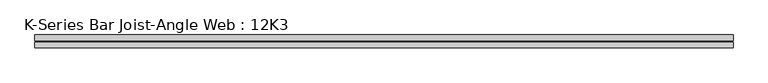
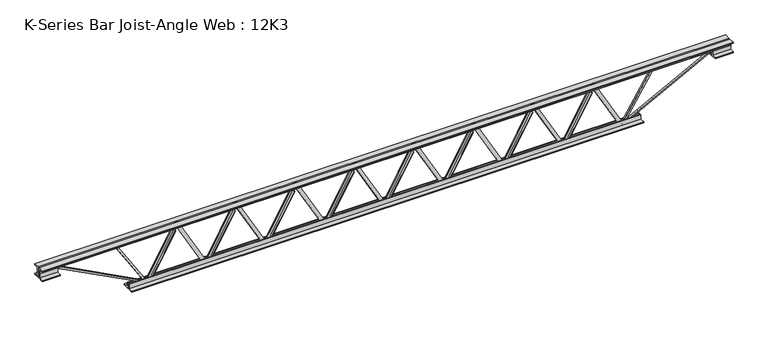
"""IFC4 building model written with IfcOpenShell, lengths in millimetres: beam geometry, K-Series Bar Joist-Angle Web : 12K3."""

from ifc_helpers import new_model, si_unit, frame, origin, place, context, project, spatial, polyline, outline, extrude, faceted_brep, source, transform, mapped, element, save


def k_series_bar_joist_angle_web_12k3_6eb7fb9a(model_context):
    return source(origin(), model_context, "Body", "SolidModel", [
        extrude(outline(polyline([(-4.7625, 4.7625), (-4.7625, 0.0), (-17.4625, 0.0), (-17.4625, 4.7625), (-4.7625, 4.7625)])), frame((981.1603102, 0.0, -114.3), z_axis=(-0.487432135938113, 0.0, 0.8731608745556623), x_axis=(0.0, -1.0, 0.0)), (0.0, 0.0, 1.0), 261.8074248),
        extrude(outline(polyline([(-149.225, 1012.5982143), (-130.175, 1012.5982143), (-130.175, 1011.839634), (149.225, 855.867759), (149.225, 837.5763393), (130.175, 837.5763393), (130.175, 844.6849196), (-149.225, 1000.6567946), (-149.225, 1012.5982143)])), frame((0.0, 0.0, 0.0), z_axis=(0.0, 1.0, 0.0), x_axis=(0.0, 0.0, 1.0)), (0.0, 0.0, 1.0), 4.7625),
        faceted_brep([(675.2544643, 0.0, -130.175), (675.2544643, 0.0, -149.225), (675.2544643, -4.7625, -149.225), (675.2544643, -4.7625, -130.175), (676.0130446, 0.0, -130.175), (831.9849196, 0.0, 149.225), (850.2763393, 0.0, 149.225), (850.2763393, 0.0, 130.175), (843.167759, 0.0, 130.175), (687.195884, 0.0, -149.225), (687.195884, -4.7625, -149.225), (706.6923683, -4.7625, -114.3), (702.5339397, -4.7625, -111.9786045), (830.147292, -4.7625, 116.6213955), (834.3057206, -4.7625, 114.3), (843.167759, -4.7625, 130.175), (850.2763393, -4.7625, 130.175), (850.2763393, -4.7625, 149.225), (831.9849196, -4.7625, 149.225), (676.0130446, -4.7625, -130.175), (834.3057206, -17.4625, 114.3), (706.6923683, -17.4625, -114.3), (702.5339397, -17.4625, -111.9786045), (830.147292, -17.4625, 116.6213955)], [[[0, 1, 2, 3]], [[1, 0, 4, 5, 6, 7, 8, 9]], [[2, 1, 9, 10]], [[3, 2, 10, 11, 12, 13, 14, 15, 16, 17, 18, 19]], [[0, 3, 19, 4]], [[9, 8, 15, 14, 20, 21, 11, 10]], [[5, 4, 19, 18]], [[7, 6, 17, 16]], [[8, 7, 16, 15]], [[6, 5, 18, 17]], [[21, 22, 12, 11]], [[20, 14, 13, 23]], [[22, 21, 20, 23]], [[12, 22, 23, 13]]]),
        extrude(outline(polyline([(-4.7625, 4.7625), (-4.7625, 0.0), (-17.4625, 0.0), (-17.4625, 4.7625), (-4.7625, 4.7625)])), frame((643.5897745, 0.0, -114.3), z_axis=(-0.487432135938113, 0.0, 0.8731608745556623), x_axis=(0.0, -1.0, 0.0)), (0.0, 0.0, 1.0), 261.8074248),
        extrude(outline(polyline([(-149.225, 675.0276786), (-130.175, 675.0276786), (-130.175, 674.2690983), (149.225, 518.2972233), (149.225, 500.0058036), (130.175, 500.0058036), (130.175, 507.1143839), (-149.225, 663.0862589), (-149.225, 675.0276786)])), frame((0.0, 0.0, 0.0), z_axis=(0.0, 1.0, 0.0), x_axis=(0.0, 0.0, 1.0)), (0.0, 0.0, 1.0), 4.7625),
        faceted_brep([(337.6839286, 0.0, -130.175), (337.6839286, 0.0, -149.225), (337.6839286, -4.7625, -149.225), (337.6839286, -4.7625, -130.175), (338.4425089, 0.0, -130.175), (494.4143839, 0.0, 149.225), (512.7058036, 0.0, 149.225), (512.7058036, 0.0, 130.175), (505.5972233, 0.0, 130.175), (349.6253483, 0.0, -149.225), (349.6253483, -4.7625, -149.225), (369.1218326, -4.7625, -114.3), (364.963404, -4.7625, -111.9786045), (492.5767562, -4.7625, 116.6213955), (496.7351849, -4.7625, 114.3), (505.5972233, -4.7625, 130.175), (512.7058036, -4.7625, 130.175), (512.7058036, -4.7625, 149.225), (494.4143839, -4.7625, 149.225), (338.4425089, -4.7625, -130.175), (496.7351849, -17.4625, 114.3), (369.1218326, -17.4625, -114.3), (364.963404, -17.4625, -111.9786045), (492.5767562, -17.4625, 116.6213955)], [[[0, 1, 2, 3]], [[1, 0, 4, 5, 6, 7, 8, 9]], [[2, 1, 9, 10]], [[3, 2, 10, 11, 12, 13, 14, 15, 16, 17, 18, 19]], [[0, 3, 19, 4]], [[9, 8, 15, 14, 20, 21, 11, 10]], [[5, 4, 19, 18]], [[7, 6, 17, 16]], [[8, 7, 16, 15]], [[6, 5, 18, 17]], [[21, 22, 12, 11]], [[20, 14, 13, 23]], [[22, 21, 20, 23]], [[12, 22, 23, 13]]]),
        extrude(outline(polyline([(-4.7625, 4.7625), (-4.7625, 0.0), (-17.4625, 0.0), (-17.4625, 4.7625), (-4.7625, 4.7625)])), frame((306.0192388, 0.0, -114.3), z_axis=(-0.487432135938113, 0.0, 0.8731608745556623), x_axis=(0.0, -1.0, 0.0)), (0.0, 0.0, 1.0), 261.8074248),
        extrude(outline(polyline([(-149.225, 337.4571429), (-130.175, 337.4571429), (-130.175, 336.6985625), (149.225, 180.7266875), (149.225, 162.4352679), (130.175, 162.4352679), (130.175, 169.5438482), (-149.225, 325.5157232), (-149.225, 337.4571429)])), frame((0.0, 0.0, 0.0), z_axis=(0.0, 1.0, 0.0), x_axis=(0.0, 0.0, 1.0)), (0.0, 0.0, 1.0), 4.7625),
        faceted_brep([(0.1133929, 0.0, -130.175), (0.1133929, 0.0, -149.225), (0.1133929, -4.7625, -149.225), (0.1133929, -4.7625, -130.175), (0.8719732, 0.0, -130.175), (156.8438482, 0.0, 149.225), (175.1352679, 0.0, 149.225), (175.1352679, 0.0, 130.175), (168.0266875, 0.0, 130.175), (12.0548125, 0.0, -149.225), (12.0548125, -4.7625, -149.225), (31.5512969, -4.7625, -114.3), (27.3928683, -4.7625, -111.9786045), (155.0062205, -4.7625, 116.6213955), (159.1646492, -4.7625, 114.3), (168.0266875, -4.7625, 130.175), (175.1352679, -4.7625, 130.175), (175.1352679, -4.7625, 149.225), (156.8438482, -4.7625, 149.225), (0.8719732, -4.7625, -130.175), (159.1646492, -17.4625, 114.3), (31.5512969, -17.4625, -114.3), (27.3928683, -17.4625, -111.9786045), (155.0062205, -17.4625, 116.6213955)], [[[0, 1, 2, 3]], [[1, 0, 4, 5, 6, 7, 8, 9]], [[2, 1, 9, 10]], [[3, 2, 10, 11, 12, 13, 14, 15, 16, 17, 18, 19]], [[0, 3, 19, 4]], [[9, 8, 15, 14, 20, 21, 11, 10]], [[5, 4, 19, 18]], [[7, 6, 17, 16]], [[8, 7, 16, 15]], [[6, 5, 18, 17]], [[21, 22, 12, 11]], [[20, 14, 13, 23]], [[22, 21, 20, 23]], [[12, 22, 23, 13]]]),
        extrude(outline(polyline([(-4.7625, 4.7624999), (-4.7625, 0.0), (-17.4625, 0.0), (-17.4625, 4.7624999), (-4.7625, 4.7624999)])), frame((-31.5512969, 0.0, -114.3), z_axis=(-0.487432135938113, 0.0, 0.8731608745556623), x_axis=(0.0, -1.0, 0.0)), (0.0, 0.0, 1.0), 261.8074248),
        extrude(outline(polyline([(-149.225, -0.1133929), (-130.175, -0.1133929), (-130.175, -0.8719732), (149.225, -156.8438482), (149.225, -175.1352679), (130.175, -175.1352679), (130.175, -168.0266875), (-149.225, -12.0548125), (-149.225, -0.1133929)])), frame((0.0, 0.0, 0.0), z_axis=(0.0, 1.0, 0.0), x_axis=(0.0, 0.0, 1.0)), (0.0, 0.0, 1.0), 4.7625),
        faceted_brep([(-337.4571429, 0.0, -130.175), (-337.4571429, 0.0, -149.225), (-337.4571429, -4.7625, -149.225), (-337.4571429, -4.7625, -130.175), (-336.6985625, 0.0, -130.175), (-180.7266875, 0.0, 149.225), (-162.4352679, 0.0, 149.225), (-162.4352679, 0.0, 130.175), (-169.5438482, 0.0, 130.175), (-325.5157232, 0.0, -149.225), (-325.5157232, -4.7625, -149.225), (-306.0192388, -4.7625, -114.3), (-310.1776675, -4.7625, -111.9786045), (-182.5643152, -4.7625, 116.6213955), (-178.4058865, -4.7625, 114.3), (-169.5438482, -4.7625, 130.175), (-162.4352679, -4.7625, 130.175), (-162.4352679, -4.7625, 149.225), (-180.7266875, -4.7625, 149.225), (-336.6985625, -4.7625, -130.175), (-178.4058865, -17.4625, 114.3), (-306.0192388, -17.4625, -114.3), (-310.1776675, -17.4625, -111.9786045), (-182.5643152, -17.4625, 116.6213955)], [[[0, 1, 2, 3]], [[1, 0, 4, 5, 6, 7, 8, 9]], [[2, 1, 9, 10]], [[3, 2, 10, 11, 12, 13, 14, 15, 16, 17, 18, 19]], [[0, 3, 19, 4]], [[9, 8, 15, 14, 20, 21, 11, 10]], [[5, 4, 19, 18]], [[7, 6, 17, 16]], [[8, 7, 16, 15]], [[6, 5, 18, 17]], [[21, 22, 12, 11]], [[20, 14, 13, 23]], [[22, 21, 20, 23]], [[12, 22, 23, 13]]]),
        extrude(outline(polyline([(-4.7625, 4.7624999), (-4.7625, 0.0), (-17.4625, 0.0), (-17.4625, 4.7624999), (-4.7625, 4.7624999)])), frame((-369.1218326, 0.0, -114.3), z_axis=(-0.487432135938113, 0.0, 0.8731608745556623), x_axis=(0.0, -1.0, 0.0)), (0.0, 0.0, 1.0), 261.8074248),
        extrude(outline(polyline([(-149.225, -337.6839286), (-130.175, -337.6839286), (-130.175, -338.4425089), (149.225, -494.4143839), (149.225, -512.7058036), (130.175, -512.7058036), (130.175, -505.5972233), (-149.225, -349.6253483), (-149.225, -337.6839286)])), frame((0.0, 0.0, 0.0), z_axis=(0.0, 1.0, 0.0), x_axis=(0.0, 0.0, 1.0)), (0.0, 0.0, 1.0), 4.7625),
        faceted_brep([(-675.0276786, 0.0, -130.175), (-675.0276786, 0.0, -149.225), (-675.0276786, -4.7625, -149.225), (-675.0276786, -4.7625, -130.175), (-674.2690983, 0.0, -130.175), (-518.2972233, 0.0, 149.225), (-500.0058036, 0.0, 149.225), (-500.0058036, 0.0, 130.175), (-507.1143839, 0.0, 130.175), (-663.0862589, 0.0, -149.225), (-663.0862589, -4.7625, -149.225), (-643.5897745, -4.7625, -114.3), (-647.7482032, -4.7625, -111.9786045), (-520.1348509, -4.7625, 116.6213955), (-515.9764222, -4.7625, 114.3), (-507.1143839, -4.7625, 130.175), (-500.0058036, -4.7625, 130.175), (-500.0058036, -4.7625, 149.225), (-518.2972233, -4.7625, 149.225), (-674.2690983, -4.7625, -130.175), (-515.9764222, -17.4625, 114.3), (-643.5897745, -17.4625, -114.3), (-647.7482032, -17.4625, -111.9786045), (-520.1348509, -17.4625, 116.6213955)], [[[0, 1, 2, 3]], [[1, 0, 4, 5, 6, 7, 8, 9]], [[2, 1, 9, 10]], [[3, 2, 10, 11, 12, 13, 14, 15, 16, 17, 18, 19]], [[0, 3, 19, 4]], [[9, 8, 15, 14, 20, 21, 11, 10]], [[5, 4, 19, 18]], [[7, 6, 17, 16]], [[8, 7, 16, 15]], [[6, 5, 18, 17]], [[21, 22, 12, 11]], [[20, 14, 13, 23]], [[22, 21, 20, 23]], [[12, 22, 23, 13]]]),
        extrude(outline(polyline([(-4.7625, 4.7624999), (-4.7625, 0.0), (-17.4625, 0.0), (-17.4625, 4.7624999), (-4.7625, 4.7624999)])), frame((-706.6923683, 0.0, -114.3), z_axis=(-0.487432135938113, 0.0, 0.8731608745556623), x_axis=(0.0, -1.0, 0.0)), (0.0, 0.0, 1.0), 261.8074248),
        extrude(outline(polyline([(-149.225, -675.2544643), (-130.175, -675.2544643), (-130.175, -676.0130446), (149.225, -831.9849196), (149.225, -850.2763393), (130.175, -850.2763393), (130.175, -843.167759), (-149.225, -687.195884), (-149.225, -675.2544643)])), frame((0.0, 0.0, 0.0), z_axis=(0.0, 1.0, 0.0), x_axis=(0.0, 0.0, 1.0)), (0.0, 0.0, 1.0), 4.7625),
        faceted_brep([(-1012.5982143, 0.0, -130.175), (-1012.5982143, 0.0, -149.225), (-1012.5982143, -4.7625, -149.225), (-1012.5982143, -4.7625, -130.175), (-1011.839634, 0.0, -130.175), (-855.867759, 0.0, 149.225), (-837.5763393, 0.0, 149.225), (-837.5763393, 0.0, 130.175), (-844.6849196, 0.0, 130.175), (-1000.6567946, 0.0, -149.225), (-1000.6567946, -4.7625, -149.225), (-981.1603102, -4.7625, -114.3), (-985.3187389, -4.7625, -111.9786045), (-857.7053866, -4.7625, 116.6213955), (-853.5469579, -4.7625, 114.3), (-844.6849196, -4.7625, 130.175), (-837.5763393, -4.7625, 130.175), (-837.5763393, -4.7625, 149.225), (-855.867759, -4.7625, 149.225), (-1011.839634, -4.7625, -130.175), (-853.5469579, -17.4625, 114.3), (-981.1603102, -17.4625, -114.3), (-985.3187389, -17.4625, -111.9786045), (-857.7053866, -17.4625, 116.6213955)], [[[0, 1, 2, 3]], [[1, 0, 4, 5, 6, 7, 8, 9]], [[2, 1, 9, 10]], [[3, 2, 10, 11, 12, 13, 14, 15, 16, 17, 18, 19]], [[0, 3, 19, 4]], [[9, 8, 15, 14, 20, 21, 11, 10]], [[5, 4, 19, 18]], [[7, 6, 17, 16]], [[8, 7, 16, 15]], [[6, 5, 18, 17]], [[21, 22, 12, 11]], [[20, 14, 13, 23]], [[22, 21, 20, 23]], [[12, 22, 23, 13]]]),
        extrude(outline(polyline([(-4.7625, 4.7625), (-4.7625, 0.0), (-17.4625, 0.0), (-17.4625, 4.7625), (-4.7625, 4.7625)])), frame((1318.7308459, 0.0, -114.3), z_axis=(-0.487432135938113, 0.0, 0.8731608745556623), x_axis=(0.0, -1.0, 0.0)), (0.0, 0.0, 1.0), 261.8074248),
        extrude(outline(polyline([(-149.225, 1350.16875), (-130.175, 1350.16875), (-130.175, 1349.4101697), (149.225, 1193.4382947), (149.225, 1175.146875), (130.175, 1175.146875), (130.175, 1182.2554553), (-149.225, 1338.2273303), (-149.225, 1350.16875)])), frame((0.0, 0.0, 0.0), z_axis=(0.0, 1.0, 0.0), x_axis=(0.0, 0.0, 1.0)), (0.0, 0.0, 1.0), 4.7625),
        faceted_brep([(1012.825, 0.0, -130.175), (1012.825, 0.0, -149.225), (1012.825, -4.7625, -149.225), (1012.825, -4.7625, -130.175), (1013.5835803, 0.0, -130.175), (1169.5554553, 0.0, 149.225), (1187.846875, 0.0, 149.225), (1187.846875, 0.0, 130.175), (1180.7382947, 0.0, 130.175), (1024.7664197, 0.0, -149.225), (1024.7664197, -4.7625, -149.225), (1044.2629041, -4.7625, -114.3), (1040.1044754, -4.7625, -111.9786045), (1167.7178277, -4.7625, 116.6213955), (1171.8762563, -4.7625, 114.3), (1180.7382947, -4.7625, 130.175), (1187.846875, -4.7625, 130.175), (1187.846875, -4.7625, 149.225), (1169.5554553, -4.7625, 149.225), (1013.5835803, -4.7625, -130.175), (1171.8762563, -17.4625, 114.3), (1044.2629041, -17.4625, -114.3), (1040.1044754, -17.4625, -111.9786045), (1167.7178277, -17.4625, 116.6213955)], [[[0, 1, 2, 3]], [[1, 0, 4, 5, 6, 7, 8, 9]], [[2, 1, 9, 10]], [[3, 2, 10, 11, 12, 13, 14, 15, 16, 17, 18, 19]], [[0, 3, 19, 4]], [[9, 8, 15, 14, 20, 21, 11, 10]], [[5, 4, 19, 18]], [[7, 6, 17, 16]], [[8, 7, 16, 15]], [[6, 5, 18, 17]], [[21, 22, 12, 11]], [[20, 14, 13, 23]], [[22, 21, 20, 23]], [[12, 22, 23, 13]]]),
        extrude(outline(polyline([(-4.7625, 4.7625), (-4.7625, 0.0), (-17.4625, 0.0), (-17.4625, 4.7625), (-4.7625, 4.7625)])), frame((-1044.2629041, 0.0, -114.3), z_axis=(-0.487432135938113, 0.0, 0.8731608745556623), x_axis=(0.0, -1.0, 0.0)), (0.0, 0.0, 1.0), 261.8074248),
        extrude(outline(polyline([(-149.225, -1012.825), (-130.175, -1012.825), (-130.175, -1013.5835803), (149.225, -1169.5554553), (149.225, -1187.846875), (130.175, -1187.846875), (130.175, -1180.7382947), (-149.225, -1024.7664197), (-149.225, -1012.825)])), frame((0.0, 0.0, 0.0), z_axis=(0.0, 1.0, 0.0), x_axis=(0.0, 0.0, 1.0)), (0.0, 0.0, 1.0), 4.7625),
        faceted_brep([(-1350.16875, 0.0, -130.175), (-1350.16875, 0.0, -149.225), (-1350.16875, -4.7625, -149.225), (-1350.16875, -4.7625, -130.175), (-1349.4101697, 0.0, -130.175), (-1193.4382947, 0.0, 149.225), (-1175.146875, 0.0, 149.225), (-1175.146875, 0.0, 130.175), (-1182.2554553, 0.0, 130.175), (-1338.2273303, 0.0, -149.225), (-1338.2273303, -4.7625, -149.225), (-1318.7308459, -4.7625, -114.3), (-1322.8892746, -4.7625, -111.9786045), (-1195.2759223, -4.7625, 116.6213955), (-1191.1174937, -4.7625, 114.3), (-1182.2554553, -4.7625, 130.175), (-1175.146875, -4.7625, 130.175), (-1175.146875, -4.7625, 149.225), (-1193.4382947, -4.7625, 149.225), (-1349.4101697, -4.7625, -130.175), (-1191.1174937, -17.4625, 114.3), (-1318.7308459, -17.4625, -114.3), (-1322.8892746, -17.4625, -111.9786045), (-1195.2759223, -17.4625, 116.6213955)], [[[0, 1, 2, 3]], [[1, 0, 4, 5, 6, 7, 8, 9]], [[2, 1, 9, 10]], [[3, 2, 10, 11, 12, 13, 14, 15, 16, 17, 18, 19]], [[0, 3, 19, 4]], [[9, 8, 15, 14, 20, 21, 11, 10]], [[5, 4, 19, 18]], [[7, 6, 17, 16]], [[8, 7, 16, 15]], [[6, 5, 18, 17]], [[21, 22, 12, 11]], [[20, 14, 13, 23]], [[22, 21, 20, 23]], [[12, 22, 23, 13]]]),
        extrude(outline(polyline([(4.7625, 152.4), (36.5125, 152.4), (36.5125, 146.05), (11.1125, 146.05), (11.1125, 120.65), (4.7625, 120.65), (4.7625, 152.4)])), frame((-1959.76875, 0.0, 0.0), z_axis=(1.0, 0.0, 0.0), x_axis=(0.0, 1.0, 0.0)), (0.0, 0.0, 1.0), 3919.5375),
        extrude(outline(polyline([(-4.7625, 152.4), (-4.7625, 120.65), (-11.1125, 120.65), (-11.1125, 146.05), (-36.5125, 146.05), (-36.5125, 152.4), (-4.7625, 152.4)])), frame((-1959.76875, 0.0, 0.0), z_axis=(1.0, 0.0, 0.0), x_axis=(0.0, 1.0, 0.0)), (0.0, 0.0, 1.0), 3919.5375),
        extrude(outline(polyline([(-4.7625, 88.9), (-36.5125, 88.9), (-36.5125, 95.25), (-11.1125, 95.25), (-11.1125, 120.65), (-4.7625, 120.65), (-4.7625, 88.9)])), frame((-1959.76875, 0.0, 0.0), z_axis=(1.0, 0.0, 0.0), x_axis=(0.0, 1.0, 0.0)), (0.0, 0.0, 1.0), 101.6),
        extrude(outline(polyline([(36.5125, 88.9), (4.7625, 88.9), (4.7625, 120.65), (11.1125, 120.65), (11.1125, 95.25), (36.5125, 95.25), (36.5125, 88.9)])), frame((-1959.76875, 0.0, 0.0), z_axis=(1.0, 0.0, 0.0), x_axis=(0.0, 1.0, 0.0)), (0.0, 0.0, 1.0), 101.6),
        extrude(outline(polyline([(4.7625, 88.9), (4.7625, 120.65), (11.1125, 120.65), (11.1125, 95.25), (36.5125, 95.25), (36.5125, 88.9), (4.7625, 88.9)])), frame((1858.16875, 0.0, 0.0), z_axis=(1.0, 0.0, 0.0), x_axis=(0.0, 1.0, 0.0)), (0.0, 0.0, 1.0), 101.6),
        extrude(outline(polyline([(-4.7625, 88.9), (-36.5125, 88.9), (-36.5125, 95.25), (-11.1125, 95.25), (-11.1125, 120.65), (-4.7625, 120.65), (-4.7625, 88.9)])), frame((1858.16875, 0.0, 0.0), z_axis=(1.0, 0.0, 0.0), x_axis=(0.0, 1.0, 0.0)), (0.0, 0.0, 1.0), 101.6),
        extrude(outline(polyline([(4.7625, -152.4), (4.7625, -120.65), (11.1125, -120.65), (11.1125, -146.05), (36.5125, -146.05), (36.5125, -152.4), (4.7625, -152.4)])), frame((-1451.76875, 0.0, 0.0), z_axis=(1.0, 0.0, 0.0), x_axis=(0.0, 1.0, 0.0)), (0.0, 0.0, 1.0), 2903.5375),
        extrude(outline(polyline([(-4.7625, -152.4), (-36.5125, -152.4), (-36.5125, -146.05), (-11.1125, -146.05), (-11.1125, -120.65), (-4.7625, -120.65), (-4.7625, -152.4)])), frame((-1451.76875, 0.0, 0.0), z_axis=(1.0, 0.0, 0.0), x_axis=(0.0, 1.0, 0.0)), (0.0, 0.0, 1.0), 2903.5375),
        extrude(outline(polyline([(4.7625, 4.7625), (4.7625, -4.7625), (-4.7625, -4.7625), (-4.7625, 4.7625), (4.7625, 4.7625)])), frame((1350.16875, 0.0, -146.05), z_axis=(0.5345133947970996, 0.0, 0.8451600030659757), x_axis=(0.0, -1.0, 0.0)), (0.0, 0.0, 1.0), 315.5615493),
        extrude(outline(polyline([(4.7625, 4.7625), (4.7625, -4.7625), (-4.7625, -4.7625), (-4.7625, 4.7625), (4.7625, 4.7625)])), frame((-1350.16875, 0.0, -146.05), z_axis=(-0.534513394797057, 0.0, 0.8451600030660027), x_axis=(0.0, -1.0, 0.0)), (0.0, 0.0, 1.0), 315.5615493),
        extrude(outline(polyline([(0.0, -9.525), (0.0, 0.0), (573.7533355, 0.0), (573.7533355, -9.525), (0.0, -9.525)])), frame((1860.3825214, -4.7625, 116.4332925), z_axis=(-0.4648338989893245, 0.0, 0.8853979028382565), x_axis=(-0.8853979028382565, 0.0, -0.4648338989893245)), (0.0, 0.0, 1.0), 9.525),
        extrude(outline(polyline([(0.0, -9.525), (0.0, 0.0), (573.7533355, 0.0), (573.7533355, -9.525), (0.0, -9.525)])), frame((-1860.3825214, 4.7625, 116.4332925), z_axis=(0.46483389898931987, 0.0, 0.8853979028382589), x_axis=(0.8853979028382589, 0.0, -0.46483389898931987)), (0.0, 0.0, 1.0), 9.525),
    ])


if __name__ == "__main__":
    model = new_model("IFC4")
    model_context = context("Model", 3, world=origin())
    ifc_project = project(units=[si_unit("LENGTHUNIT", "METRE", prefix="MILLI")], contexts=[model_context])
    site = spatial("IfcSite", under=ifc_project)
    building = spatial("IfcBuilding", under=site)
    placement = place(None, origin())
    k_series_bar_joist_angle_web_12k3_shape = k_series_bar_joist_angle_web_12k3_6eb7fb9a(model_context)
    element("IfcBeam", 1, ObjectType="K-Series Bar Joist-Angle Web : 12K3", at=placement, inside=building, context=model_context, shape_type="MappedRepresentation", body=[
        mapped(k_series_bar_joist_angle_web_12k3_shape, transform((0.0, 0.0, 0.0), x_axis=(1.0, 0.0, 0.0), y_axis=(0.0, 1.0, 0.0), z_axis=(0.0, 0.0, 1.0))),
    ])
    save(model, "model.ifc")
